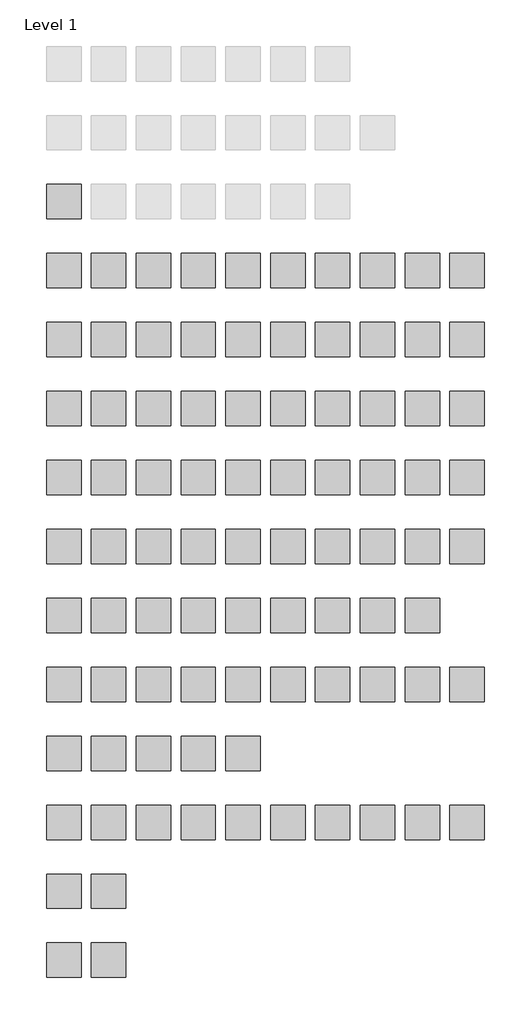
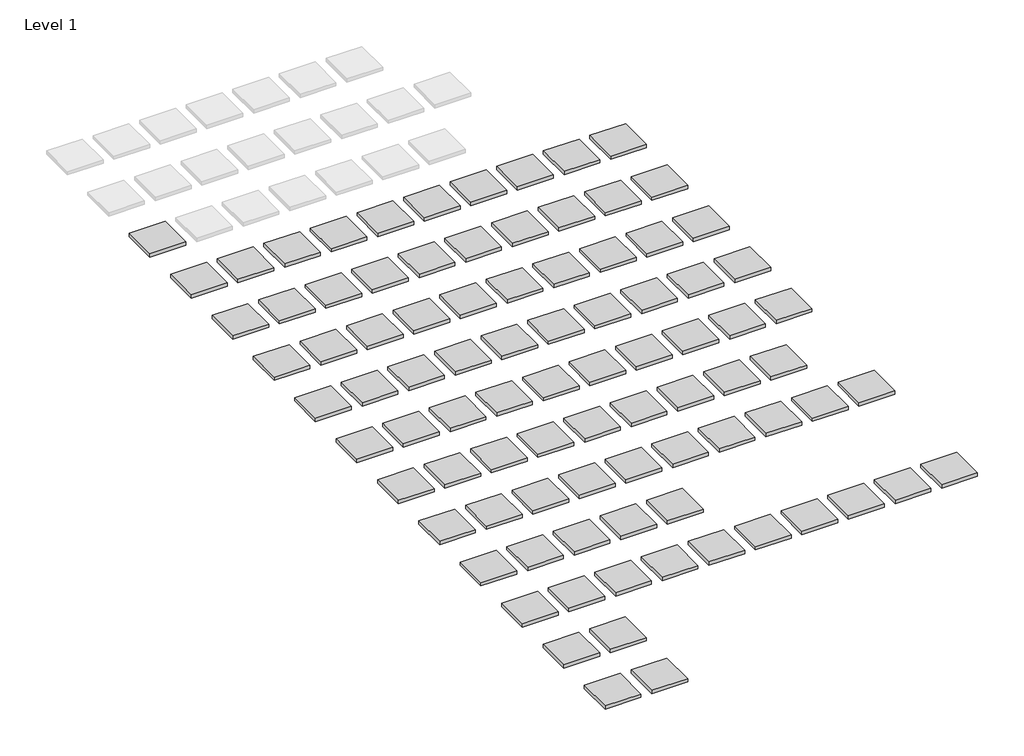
# One storey, part 1 of 2: 89 proxies.
"""IFC4 building model written with IfcOpenShell, lengths in millimetres."""

import ifcopenshell
import ifcopenshell.guid

model = None  # the IFC model being written
_history = None  # IfcOwnerHistory: only IFC2X3 demands one
_inside = {}  # id of a spatial element -> (the spatial element, [elements in it])
_under = {}  # id of a project, library or spatial element -> (it, [spatial elements below it])
_declared = {}  # id of a project -> (the project, [libraries it declares])
_typed = {}  # id of a type object -> (the type object, [elements of that type])
_made_of = {}  # id of a material, layer set ... -> (it, [elements and type objects made of it])


def new_model(schema):
    """Start an empty IFC model of exactly this schema.

    Asked for "IFC4X3", IfcOpenShell would pick the latest addendum, in which some entities
    have other attributes; the version numbers below select the first issue.
    IFC2X3 requires an IfcOwnerHistory on every rooted entity: one is made here for all.
    """
    global model, _history
    if schema == "IFC4X3":
        model = ifcopenshell.file(schema_version=(4, 3, 0, 0))
    else:
        model = ifcopenshell.file(schema=schema)
    _inside.clear()
    _under.clear()
    _declared.clear()
    _typed.clear()
    _made_of.clear()
    _history = None
    if model.schema == "IFC2X3":
        org = make("IfcOrganization", Name="unknown")
        user = make(
            "IfcPersonAndOrganization",
            ThePerson=make("IfcPerson", FamilyName="unknown"),
            TheOrganization=org,
        )
        app = make(
            "IfcApplication",
            ApplicationDeveloper=org,
            Version="unknown",
            ApplicationFullName="unknown",
            ApplicationIdentifier="unknown",
        )
        _history = make(
            "IfcOwnerHistory",
            OwningUser=user,
            OwningApplication=app,
            ChangeAction="ADDED",
            CreationDate=0,
        )
    return model


def make(cls, **values):
    """One entity of the class cls with the attributes given. An attribute that is None is left unset."""
    return model.create_entity(
        cls, **{name: value for name, value in values.items() if value is not None}
    )


def rooted(cls, **values):
    """An entity with a GlobalId (a new one), such as an element, a storey or a relation."""
    return make(cls, GlobalId=ifcopenshell.guid.new(), OwnerHistory=_history, **values)


def si_unit(unit_type, name, prefix=None):
    """IfcSIUnit, for example si_unit("LENGTHUNIT", "METRE", prefix="MILLI")."""
    return make("IfcSIUnit", UnitType=unit_type, Prefix=prefix, Name=name)


def assignment(units):
    """IfcUnitAssignment: the units of a project."""
    return None if units is None else make("IfcUnitAssignment", Units=units)


def point(xyz):
    """IfcCartesianPoint."""
    return None if xyz is None else make("IfcCartesianPoint", Coordinates=xyz)


def direction(xyz):
    """IfcDirection."""
    return None if xyz is None else make("IfcDirection", DirectionRatios=xyz)


def frame(location, z_axis=None, x_axis=None):
    """IfcAxis2Placement3D, a coordinate frame: its origin and axes. An axis left out is left unset."""
    return make(
        "IfcAxis2Placement3D",
        Location=point(location),
        Axis=direction(z_axis),
        RefDirection=direction(x_axis),
    )


def origin():
    """The frame at (0, 0, 0) with its axes left unset."""
    return frame((0.0, 0.0, 0.0))


def origin_with_axes():
    """The frame at (0, 0, 0) with the z axis (0, 0, 1) and the x axis (1, 0, 0) written out."""
    return frame((0.0, 0.0, 0.0), z_axis=(0.0, 0.0, 1.0), x_axis=(1.0, 0.0, 0.0))


def place(relative_to, where):
    """IfcLocalPlacement: puts the frame where relative to a parent placement (None: the world)."""
    return make(
        "IfcLocalPlacement", PlacementRelTo=relative_to, RelativePlacement=where
    )


def context(
    kind, dimensions, precision=None, world=None, true_north=None, identifier=None
):
    """IfcGeometricRepresentationContext, for example the 3D "Model" context."""
    return make(
        "IfcGeometricRepresentationContext",
        ContextIdentifier=identifier,
        ContextType=kind,
        CoordinateSpaceDimension=dimensions,
        Precision=precision,
        WorldCoordinateSystem=world,
        TrueNorth=true_north,
    )


def project(units=None, contexts=None):
    """IfcProject with its units and contexts."""
    return rooted(
        "IfcProject",
        Name="project",
        RepresentationContexts=contexts,
        UnitsInContext=assignment(units),
    )


def spatial(cls, under=None, at=None, **own):
    """A site, building, storey or space (cls), placed at a placement, below another one or the project."""
    s = rooted(cls, ObjectPlacement=at, **own)
    if under is not None:
        _under.setdefault(under.id(), (under, []))[1].append(s)
    return s


def polyline(points):
    """IfcPolyline through the points."""
    return make("IfcPolyline", Points=[point(p) for p in points])


def outline(outer, holes=None, kind="AREA"):
    """IfcArbitraryClosedProfileDef: a profile drawn as a closed curve; with holes, ...WithVoids."""
    if holes is None:
        return make("IfcArbitraryClosedProfileDef", ProfileType=kind, OuterCurve=outer)
    return make(
        "IfcArbitraryProfileDefWithVoids",
        ProfileType=kind,
        OuterCurve=outer,
        InnerCurves=holes,
    )


def extrude(swept, where, along, depth):
    """IfcExtrudedAreaSolid: the profile swept, set in the frame where, extruded along a direction by depth."""
    return make(
        "IfcExtrudedAreaSolid",
        SweptArea=swept,
        Position=where,
        ExtrudedDirection=direction(along),
        Depth=depth,
    )


def shape(context_of_items, identifier, shape_type, items):
    """IfcShapeRepresentation: the items that make up one representation, for example the "Body"."""
    return make(
        "IfcShapeRepresentation",
        ContextOfItems=context_of_items,
        RepresentationIdentifier=identifier,
        RepresentationType=shape_type,
        Items=items,
    )


def source(mapping_origin, context_of_items, identifier, shape_type, items):
    """IfcRepresentationMap: a shape defined once, which mapped items show again and again."""
    return make(
        "IfcRepresentationMap",
        MappingOrigin=mapping_origin,
        MappedRepresentation=shape(context_of_items, identifier, shape_type, items),
    )


def transform(
    local_origin,
    x_axis=None,
    y_axis=None,
    z_axis=None,
    scale=None,
    scale2=None,
    scale3=None,
    uniform=True,
):
    """IfcCartesianTransformationOperator3D, or its non-uniform kind. x_axis, y_axis, z_axis: its Axis1, 2, 3."""
    if uniform:
        return make(
            "IfcCartesianTransformationOperator3D",
            Axis1=direction(x_axis),
            Axis2=direction(y_axis),
            LocalOrigin=point(local_origin),
            Scale=scale,
            Axis3=direction(z_axis),
        )
    return make(
        "IfcCartesianTransformationOperator3DnonUniform",
        Axis1=direction(x_axis),
        Axis2=direction(y_axis),
        LocalOrigin=point(local_origin),
        Scale=scale,
        Axis3=direction(z_axis),
        Scale2=scale2,
        Scale3=scale3,
    )


def mapped(mapping_source, mapping_target):
    """IfcMappedItem: shows the shape of a source again, moved by a transform."""
    return make(
        "IfcMappedItem", MappingSource=mapping_source, MappingTarget=mapping_target
    )


def made_of(thing, what):
    """Note that an element or type object is made of a material, layer set ...; save() writes the relation."""
    if what is not None:
        _made_of.setdefault(what.id(), (what, []))[1].append(thing)
    return thing


def element(
    cls,
    number,
    at=None,
    inside=None,
    cuts=None,
    type_object=None,
    material=None,
    context=None,
    identifier="Body",
    shape_type=None,
    held_by="IfcProductDefinitionShape",
    body=None,
    shapes=None,
    **own,
):
    """One element of the class cls, such as IfcWall. Its Tag is "e" and its number.

    at: its placement. inside: the storey or other place that contains it. cuts: it is an
    opening in that element (IfcRelVoidsElement). A single representation is given by context,
    identifier, shape_type and body (its items); several are given by shapes. held_by: the class
    of the entity that holds the representations. save() writes the other relations.
    """
    e = rooted(cls, Tag="e%d" % number, ObjectPlacement=at, **own)
    if body is not None:
        shapes = [shape(context, identifier, shape_type, body)]
    if shapes is not None:
        e.Representation = make(held_by, Representations=shapes)
    if inside is not None:
        _inside.setdefault(inside.id(), (inside, []))[1].append(e)
    if cuts is not None:
        rooted(
            "IfcRelVoidsElement", RelatingBuildingElement=cuts, RelatedOpeningElement=e
        )
    if type_object is not None:
        _typed.setdefault(type_object.id(), (type_object, []))[1].append(e)
    return made_of(e, material)


def aggregate(whole, parts):
    """IfcRelAggregates: a whole, such as a stair, and the parts it consists of."""
    return rooted("IfcRelAggregates", RelatingObject=whole, RelatedObjects=parts)


def save(model, path):
    """Write the relations noted so far, then the file.

    IfcRelAggregates (storeys below a building ...), IfcRelContainedInSpatialStructure (elements
    in a storey), IfcRelDefinesByType, IfcRelAssociatesMaterial and IfcRelDeclares: one each for
    every whole, place, type object, material and project.
    """
    for whole, parts in _under.values():
        aggregate(whole, parts)
    for where, things in _inside.values():
        rooted(
            "IfcRelContainedInSpatialStructure",
            RelatedElements=things,
            RelatingStructure=where,
        )
    for kind, things in _typed.values():
        rooted("IfcRelDefinesByType", RelatedObjects=things, RelatingType=kind)
    for what, things in _made_of.values():
        rooted("IfcRelAssociatesMaterial", RelatedObjects=things, RelatingMaterial=what)
    for by, libraries in _declared.values():
        rooted("IfcRelDeclares", RelatingContext=by, RelatedDefinitions=libraries)
    model.write(path)


def generic_models_875eb390(model_context):
    return source(origin(), model_context, "Body", "SweptSolid", [
        extrude(outline(polyline([(1000.0, 0.0), (0.0, 0.0), (0.0, 1000.0), (1000.0, 1000.0), (1000.0, 0.0)])), origin_with_axes(), (0.0, 0.0, 1.0), 100.0),
    ])


model = new_model("IFC4")

# Units and contexts
model_context = context("Model", 3, world=origin())
ifc_project = project(units=[si_unit("LENGTHUNIT", "METRE", prefix="MILLI")], contexts=[model_context])

# Site, building, storey
site = spatial("IfcSite", under=ifc_project)
building = spatial("IfcBuilding", under=site)
storey = spatial("IfcBuildingStorey", under=building, Name="Level 1", Elevation=0.0)

# Proxies
placement = place(None, origin())
generic_models_shape = generic_models_875eb390(model_context)
element("IfcBuildingElementProxy", 1, Name="martela - material button : martela - material button", ObjectType="martela - material button : martela - material button", at=placement, inside=storey, context=model_context, shape_type="MappedRepresentation", body=[
    mapped(generic_models_shape, transform((1659.2592593, -7736.0165551, 0.0), x_axis=(1.0, 0.0, 0.0), y_axis=(0.0, 1.0, 0.0), z_axis=(0.0, 0.0, 1.0))),
])
element("IfcBuildingElementProxy", 2, Name="martela - material button : martela - material button", ObjectType="martela - material button : martela - material button", at=placement, inside=storey, context=model_context, shape_type="MappedRepresentation", body=[
    mapped(generic_models_shape, transform((1659.2592593, -9736.0165551, 0.0), x_axis=(1.0, 0.0, 0.0), y_axis=(0.0, 1.0, 0.0), z_axis=(0.0, 0.0, 1.0))),
])
element("IfcBuildingElementProxy", 3, Name="martela - material button : martela - material button", ObjectType="martela - material button : martela - material button", at=placement, inside=storey, context=model_context, shape_type="MappedRepresentation", body=[
    mapped(generic_models_shape, transform((2959.2592593, -9736.0165551, 0.0), x_axis=(1.0, 0.0, 0.0), y_axis=(0.0, 1.0, 0.0), z_axis=(0.0, 0.0, 1.0))),
])
element("IfcBuildingElementProxy", 4, Name="martela - material button : martela - material button", ObjectType="martela - material button : martela - material button", at=placement, inside=storey, context=model_context, shape_type="MappedRepresentation", body=[
    mapped(generic_models_shape, transform((4259.2592593, -9736.0165551, 0.0), x_axis=(1.0, 0.0, 0.0), y_axis=(0.0, 1.0, 0.0), z_axis=(0.0, 0.0, 1.0))),
])
element("IfcBuildingElementProxy", 5, Name="martela - material button : martela - material button", ObjectType="martela - material button : martela - material button", at=placement, inside=storey, context=model_context, shape_type="MappedRepresentation", body=[
    mapped(generic_models_shape, transform((5559.2592593, -9736.0165551, 0.0), x_axis=(1.0, 0.0, 0.0), y_axis=(0.0, 1.0, 0.0), z_axis=(0.0, 0.0, 1.0))),
])
element("IfcBuildingElementProxy", 6, Name="martela - material button : martela - material button", ObjectType="martela - material button : martela - material button", at=placement, inside=storey, context=model_context, shape_type="MappedRepresentation", body=[
    mapped(generic_models_shape, transform((6859.2592593, -9736.0165551, 0.0), x_axis=(1.0, 0.0, 0.0), y_axis=(0.0, 1.0, 0.0), z_axis=(0.0, 0.0, 1.0))),
])
element("IfcBuildingElementProxy", 7, Name="martela - material button : martela - material button", ObjectType="martela - material button : martela - material button", at=placement, inside=storey, context=model_context, shape_type="MappedRepresentation", body=[
    mapped(generic_models_shape, transform((8159.2592593, -9736.0165551, 0.0), x_axis=(1.0, 0.0, 0.0), y_axis=(0.0, 1.0, 0.0), z_axis=(0.0, 0.0, 1.0))),
])
element("IfcBuildingElementProxy", 8, Name="martela - material button : martela - material button", ObjectType="martela - material button : martela - material button", at=placement, inside=storey, context=model_context, shape_type="MappedRepresentation", body=[
    mapped(generic_models_shape, transform((9459.2592593, -9736.0165551, 0.0), x_axis=(1.0, 0.0, 0.0), y_axis=(0.0, 1.0, 0.0), z_axis=(0.0, 0.0, 1.0))),
])
element("IfcBuildingElementProxy", 9, Name="martela - material button : martela - material button", ObjectType="martela - material button : martela - material button", at=placement, inside=storey, context=model_context, shape_type="MappedRepresentation", body=[
    mapped(generic_models_shape, transform((10759.2592593, -9736.0165551, 0.0), x_axis=(1.0, 0.0, 0.0), y_axis=(0.0, 1.0, 0.0), z_axis=(0.0, 0.0, 1.0))),
])
element("IfcBuildingElementProxy", 10, Name="martela - material button : martela - material button", ObjectType="martela - material button : martela - material button", at=placement, inside=storey, context=model_context, shape_type="MappedRepresentation", body=[
    mapped(generic_models_shape, transform((12059.2592593, -9736.0165551, 0.0), x_axis=(1.0, 0.0, 0.0), y_axis=(0.0, 1.0, 0.0), z_axis=(0.0, 0.0, 1.0))),
])
element("IfcBuildingElementProxy", 11, Name="martela - material button : martela - material button", ObjectType="martela - material button : martela - material button", at=placement, inside=storey, context=model_context, shape_type="MappedRepresentation", body=[
    mapped(generic_models_shape, transform((13359.2592593, -9736.0165551, 0.0), x_axis=(1.0, 0.0, 0.0), y_axis=(0.0, 1.0, 0.0), z_axis=(0.0, 0.0, 1.0))),
])
element("IfcBuildingElementProxy", 12, Name="martela - material button : martela - material button", ObjectType="martela - material button : martela - material button", at=placement, inside=storey, context=model_context, shape_type="MappedRepresentation", body=[
    mapped(generic_models_shape, transform((1659.2592593, -11736.0165551, 0.0), x_axis=(1.0, 0.0, 0.0), y_axis=(0.0, 1.0, 0.0), z_axis=(0.0, 0.0, 1.0))),
])
element("IfcBuildingElementProxy", 13, Name="martela - material button : martela - material button", ObjectType="martela - material button : martela - material button", at=placement, inside=storey, context=model_context, shape_type="MappedRepresentation", body=[
    mapped(generic_models_shape, transform((2959.2592593, -11736.0165551, 0.0), x_axis=(1.0, 0.0, 0.0), y_axis=(0.0, 1.0, 0.0), z_axis=(0.0, 0.0, 1.0))),
])
element("IfcBuildingElementProxy", 14, Name="martela - material button : martela - material button", ObjectType="martela - material button : martela - material button", at=placement, inside=storey, context=model_context, shape_type="MappedRepresentation", body=[
    mapped(generic_models_shape, transform((4259.2592593, -11736.0165551, 0.0), x_axis=(1.0, 0.0, 0.0), y_axis=(0.0, 1.0, 0.0), z_axis=(0.0, 0.0, 1.0))),
])
element("IfcBuildingElementProxy", 15, Name="martela - material button : martela - material button", ObjectType="martela - material button : martela - material button", at=placement, inside=storey, context=model_context, shape_type="MappedRepresentation", body=[
    mapped(generic_models_shape, transform((5559.2592593, -11736.0165551, 0.0), x_axis=(1.0, 0.0, 0.0), y_axis=(0.0, 1.0, 0.0), z_axis=(0.0, 0.0, 1.0))),
])
element("IfcBuildingElementProxy", 16, Name="martela - material button : martela - material button", ObjectType="martela - material button : martela - material button", at=placement, inside=storey, context=model_context, shape_type="MappedRepresentation", body=[
    mapped(generic_models_shape, transform((6859.2592593, -11736.0165551, 0.0), x_axis=(1.0, 0.0, 0.0), y_axis=(0.0, 1.0, 0.0), z_axis=(0.0, 0.0, 1.0))),
])
element("IfcBuildingElementProxy", 17, Name="martela - material button : martela - material button", ObjectType="martela - material button : martela - material button", at=placement, inside=storey, context=model_context, shape_type="MappedRepresentation", body=[
    mapped(generic_models_shape, transform((8159.2592593, -11736.0165551, 0.0), x_axis=(1.0, 0.0, 0.0), y_axis=(0.0, 1.0, 0.0), z_axis=(0.0, 0.0, 1.0))),
])
element("IfcBuildingElementProxy", 18, Name="martela - material button : martela - material button", ObjectType="martela - material button : martela - material button", at=placement, inside=storey, context=model_context, shape_type="MappedRepresentation", body=[
    mapped(generic_models_shape, transform((9459.2592593, -11736.0165551, 0.0), x_axis=(1.0, 0.0, 0.0), y_axis=(0.0, 1.0, 0.0), z_axis=(0.0, 0.0, 1.0))),
])
element("IfcBuildingElementProxy", 19, Name="martela - material button : martela - material button", ObjectType="martela - material button : martela - material button", at=placement, inside=storey, context=model_context, shape_type="MappedRepresentation", body=[
    mapped(generic_models_shape, transform((10759.2592593, -11736.0165551, 0.0), x_axis=(1.0, 0.0, 0.0), y_axis=(0.0, 1.0, 0.0), z_axis=(0.0, 0.0, 1.0))),
])
element("IfcBuildingElementProxy", 20, Name="martela - material button : martela - material button", ObjectType="martela - material button : martela - material button", at=placement, inside=storey, context=model_context, shape_type="MappedRepresentation", body=[
    mapped(generic_models_shape, transform((12059.2592593, -11736.0165551, 0.0), x_axis=(1.0, 0.0, 0.0), y_axis=(0.0, 1.0, 0.0), z_axis=(0.0, 0.0, 1.0))),
])
element("IfcBuildingElementProxy", 21, Name="martela - material button : martela - material button", ObjectType="martela - material button : martela - material button", at=placement, inside=storey, context=model_context, shape_type="MappedRepresentation", body=[
    mapped(generic_models_shape, transform((13359.2592593, -11736.0165551, 0.0), x_axis=(1.0, 0.0, 0.0), y_axis=(0.0, 1.0, 0.0), z_axis=(0.0, 0.0, 1.0))),
])
element("IfcBuildingElementProxy", 22, Name="martela - material button : martela - material button", ObjectType="martela - material button : martela - material button", at=placement, inside=storey, context=model_context, shape_type="MappedRepresentation", body=[
    mapped(generic_models_shape, transform((1659.2592593, -13736.0165551, 0.0), x_axis=(1.0, 0.0, 0.0), y_axis=(0.0, 1.0, 0.0), z_axis=(0.0, 0.0, 1.0))),
])
element("IfcBuildingElementProxy", 23, Name="martela - material button : martela - material button", ObjectType="martela - material button : martela - material button", at=placement, inside=storey, context=model_context, shape_type="MappedRepresentation", body=[
    mapped(generic_models_shape, transform((2959.2592593, -13736.0165551, 0.0), x_axis=(1.0, 0.0, 0.0), y_axis=(0.0, 1.0, 0.0), z_axis=(0.0, 0.0, 1.0))),
])
element("IfcBuildingElementProxy", 24, Name="martela - material button : martela - material button", ObjectType="martela - material button : martela - material button", at=placement, inside=storey, context=model_context, shape_type="MappedRepresentation", body=[
    mapped(generic_models_shape, transform((4259.2592593, -13736.0165551, 0.0), x_axis=(1.0, 0.0, 0.0), y_axis=(0.0, 1.0, 0.0), z_axis=(0.0, 0.0, 1.0))),
])
element("IfcBuildingElementProxy", 25, Name="martela - material button : martela - material button", ObjectType="martela - material button : martela - material button", at=placement, inside=storey, context=model_context, shape_type="MappedRepresentation", body=[
    mapped(generic_models_shape, transform((5559.2592593, -13736.0165551, 0.0), x_axis=(1.0, 0.0, 0.0), y_axis=(0.0, 1.0, 0.0), z_axis=(0.0, 0.0, 1.0))),
])
element("IfcBuildingElementProxy", 26, Name="martela - material button : martela - material button", ObjectType="martela - material button : martela - material button", at=placement, inside=storey, context=model_context, shape_type="MappedRepresentation", body=[
    mapped(generic_models_shape, transform((6859.2592593, -13736.0165551, 0.0), x_axis=(1.0, 0.0, 0.0), y_axis=(0.0, 1.0, 0.0), z_axis=(0.0, 0.0, 1.0))),
])
element("IfcBuildingElementProxy", 27, Name="martela - material button : martela - material button", ObjectType="martela - material button : martela - material button", at=placement, inside=storey, context=model_context, shape_type="MappedRepresentation", body=[
    mapped(generic_models_shape, transform((8159.2592593, -13736.0165551, 0.0), x_axis=(1.0, 0.0, 0.0), y_axis=(0.0, 1.0, 0.0), z_axis=(0.0, 0.0, 1.0))),
])
element("IfcBuildingElementProxy", 28, Name="martela - material button : martela - material button", ObjectType="martela - material button : martela - material button", at=placement, inside=storey, context=model_context, shape_type="MappedRepresentation", body=[
    mapped(generic_models_shape, transform((9459.2592593, -13736.0165551, 0.0), x_axis=(1.0, 0.0, 0.0), y_axis=(0.0, 1.0, 0.0), z_axis=(0.0, 0.0, 1.0))),
])
element("IfcBuildingElementProxy", 29, Name="martela - material button : martela - material button", ObjectType="martela - material button : martela - material button", at=placement, inside=storey, context=model_context, shape_type="MappedRepresentation", body=[
    mapped(generic_models_shape, transform((10759.2592593, -13736.0165551, 0.0), x_axis=(1.0, 0.0, 0.0), y_axis=(0.0, 1.0, 0.0), z_axis=(0.0, 0.0, 1.0))),
])
element("IfcBuildingElementProxy", 30, Name="martela - material button : martela - material button", ObjectType="martela - material button : martela - material button", at=placement, inside=storey, context=model_context, shape_type="MappedRepresentation", body=[
    mapped(generic_models_shape, transform((12059.2592593, -13736.0165551, 0.0), x_axis=(1.0, 0.0, 0.0), y_axis=(0.0, 1.0, 0.0), z_axis=(0.0, 0.0, 1.0))),
])
element("IfcBuildingElementProxy", 31, Name="martela - material button : martela - material button", ObjectType="martela - material button : martela - material button", at=placement, inside=storey, context=model_context, shape_type="MappedRepresentation", body=[
    mapped(generic_models_shape, transform((13359.2592593, -13736.0165551, 0.0), x_axis=(1.0, 0.0, 0.0), y_axis=(0.0, 1.0, 0.0), z_axis=(0.0, 0.0, 1.0))),
])
element("IfcBuildingElementProxy", 32, Name="martela - material button : martela - material button", ObjectType="martela - material button : martela - material button", at=placement, inside=storey, context=model_context, shape_type="MappedRepresentation", body=[
    mapped(generic_models_shape, transform((1659.2592593, -15736.0165551, 0.0), x_axis=(1.0, 0.0, 0.0), y_axis=(0.0, 1.0, 0.0), z_axis=(0.0, 0.0, 1.0))),
])
element("IfcBuildingElementProxy", 33, Name="martela - material button : martela - material button", ObjectType="martela - material button : martela - material button", at=placement, inside=storey, context=model_context, shape_type="MappedRepresentation", body=[
    mapped(generic_models_shape, transform((2959.2592593, -15736.0165551, 0.0), x_axis=(1.0, 0.0, 0.0), y_axis=(0.0, 1.0, 0.0), z_axis=(0.0, 0.0, 1.0))),
])
element("IfcBuildingElementProxy", 34, Name="martela - material button : martela - material button", ObjectType="martela - material button : martela - material button", at=placement, inside=storey, context=model_context, shape_type="MappedRepresentation", body=[
    mapped(generic_models_shape, transform((4259.2592593, -15736.0165551, 0.0), x_axis=(1.0, 0.0, 0.0), y_axis=(0.0, 1.0, 0.0), z_axis=(0.0, 0.0, 1.0))),
])
element("IfcBuildingElementProxy", 35, Name="martela - material button : martela - material button", ObjectType="martela - material button : martela - material button", at=placement, inside=storey, context=model_context, shape_type="MappedRepresentation", body=[
    mapped(generic_models_shape, transform((5559.2592593, -15736.0165551, 0.0), x_axis=(1.0, 0.0, 0.0), y_axis=(0.0, 1.0, 0.0), z_axis=(0.0, 0.0, 1.0))),
])
element("IfcBuildingElementProxy", 36, Name="martela - material button : martela - material button", ObjectType="martela - material button : martela - material button", at=placement, inside=storey, context=model_context, shape_type="MappedRepresentation", body=[
    mapped(generic_models_shape, transform((6859.2592593, -15736.0165551, 0.0), x_axis=(1.0, 0.0, 0.0), y_axis=(0.0, 1.0, 0.0), z_axis=(0.0, 0.0, 1.0))),
])
element("IfcBuildingElementProxy", 37, Name="martela - material button : martela - material button", ObjectType="martela - material button : martela - material button", at=placement, inside=storey, context=model_context, shape_type="MappedRepresentation", body=[
    mapped(generic_models_shape, transform((8159.2592593, -15736.0165551, 0.0), x_axis=(1.0, 0.0, 0.0), y_axis=(0.0, 1.0, 0.0), z_axis=(0.0, 0.0, 1.0))),
])
element("IfcBuildingElementProxy", 38, Name="martela - material button : martela - material button", ObjectType="martela - material button : martela - material button", at=placement, inside=storey, context=model_context, shape_type="MappedRepresentation", body=[
    mapped(generic_models_shape, transform((9459.2592593, -15736.0165551, 0.0), x_axis=(1.0, 0.0, 0.0), y_axis=(0.0, 1.0, 0.0), z_axis=(0.0, 0.0, 1.0))),
])
element("IfcBuildingElementProxy", 39, Name="martela - material button : martela - material button", ObjectType="martela - material button : martela - material button", at=placement, inside=storey, context=model_context, shape_type="MappedRepresentation", body=[
    mapped(generic_models_shape, transform((10759.2592593, -15736.0165551, 0.0), x_axis=(1.0, 0.0, 0.0), y_axis=(0.0, 1.0, 0.0), z_axis=(0.0, 0.0, 1.0))),
])
element("IfcBuildingElementProxy", 40, Name="martela - material button : martela - material button", ObjectType="martela - material button : martela - material button", at=placement, inside=storey, context=model_context, shape_type="MappedRepresentation", body=[
    mapped(generic_models_shape, transform((12059.2592593, -15736.0165551, 0.0), x_axis=(1.0, 0.0, 0.0), y_axis=(0.0, 1.0, 0.0), z_axis=(0.0, 0.0, 1.0))),
])
element("IfcBuildingElementProxy", 41, Name="martela - material button : martela - material button", ObjectType="martela - material button : martela - material button", at=placement, inside=storey, context=model_context, shape_type="MappedRepresentation", body=[
    mapped(generic_models_shape, transform((13359.2592593, -15736.0165551, 0.0), x_axis=(1.0, 0.0, 0.0), y_axis=(0.0, 1.0, 0.0), z_axis=(0.0, 0.0, 1.0))),
])
element("IfcBuildingElementProxy", 42, Name="martela - material button : martela - material button", ObjectType="martela - material button : martela - material button", at=placement, inside=storey, context=model_context, shape_type="MappedRepresentation", body=[
    mapped(generic_models_shape, transform((1659.2592593, -17736.0165551, 0.0), x_axis=(1.0, 0.0, 0.0), y_axis=(0.0, 1.0, 0.0), z_axis=(0.0, 0.0, 1.0))),
])
element("IfcBuildingElementProxy", 43, Name="martela - material button : martela - material button", ObjectType="martela - material button : martela - material button", at=placement, inside=storey, context=model_context, shape_type="MappedRepresentation", body=[
    mapped(generic_models_shape, transform((2959.2592593, -17736.0165551, 0.0), x_axis=(1.0, 0.0, 0.0), y_axis=(0.0, 1.0, 0.0), z_axis=(0.0, 0.0, 1.0))),
])
element("IfcBuildingElementProxy", 44, Name="martela - material button : martela - material button", ObjectType="martela - material button : martela - material button", at=placement, inside=storey, context=model_context, shape_type="MappedRepresentation", body=[
    mapped(generic_models_shape, transform((4259.2592593, -17736.0165551, 0.0), x_axis=(1.0, 0.0, 0.0), y_axis=(0.0, 1.0, 0.0), z_axis=(0.0, 0.0, 1.0))),
])
element("IfcBuildingElementProxy", 45, Name="martela - material button : martela - material button", ObjectType="martela - material button : martela - material button", at=placement, inside=storey, context=model_context, shape_type="MappedRepresentation", body=[
    mapped(generic_models_shape, transform((5559.2592593, -17736.0165551, 0.0), x_axis=(1.0, 0.0, 0.0), y_axis=(0.0, 1.0, 0.0), z_axis=(0.0, 0.0, 1.0))),
])
element("IfcBuildingElementProxy", 46, Name="martela - material button : martela - material button", ObjectType="martela - material button : martela - material button", at=placement, inside=storey, context=model_context, shape_type="MappedRepresentation", body=[
    mapped(generic_models_shape, transform((6859.2592593, -17736.0165551, 0.0), x_axis=(1.0, 0.0, 0.0), y_axis=(0.0, 1.0, 0.0), z_axis=(0.0, 0.0, 1.0))),
])
element("IfcBuildingElementProxy", 47, Name="martela - material button : martela - material button", ObjectType="martela - material button : martela - material button", at=placement, inside=storey, context=model_context, shape_type="MappedRepresentation", body=[
    mapped(generic_models_shape, transform((8159.2592593, -17736.0165551, 0.0), x_axis=(1.0, 0.0, 0.0), y_axis=(0.0, 1.0, 0.0), z_axis=(0.0, 0.0, 1.0))),
])
element("IfcBuildingElementProxy", 48, Name="martela - material button : martela - material button", ObjectType="martela - material button : martela - material button", at=placement, inside=storey, context=model_context, shape_type="MappedRepresentation", body=[
    mapped(generic_models_shape, transform((9459.2592593, -17736.0165551, 0.0), x_axis=(1.0, 0.0, 0.0), y_axis=(0.0, 1.0, 0.0), z_axis=(0.0, 0.0, 1.0))),
])
element("IfcBuildingElementProxy", 49, Name="martela - material button : martela - material button", ObjectType="martela - material button : martela - material button", at=placement, inside=storey, context=model_context, shape_type="MappedRepresentation", body=[
    mapped(generic_models_shape, transform((10759.2592593, -17736.0165551, 0.0), x_axis=(1.0, 0.0, 0.0), y_axis=(0.0, 1.0, 0.0), z_axis=(0.0, 0.0, 1.0))),
])
element("IfcBuildingElementProxy", 50, Name="martela - material button : martela - material button", ObjectType="martela - material button : martela - material button", at=placement, inside=storey, context=model_context, shape_type="MappedRepresentation", body=[
    mapped(generic_models_shape, transform((12059.2592593, -17736.0165551, 0.0), x_axis=(1.0, 0.0, 0.0), y_axis=(0.0, 1.0, 0.0), z_axis=(0.0, 0.0, 1.0))),
])
element("IfcBuildingElementProxy", 51, Name="martela - material button : martela - material button", ObjectType="martela - material button : martela - material button", at=placement, inside=storey, context=model_context, shape_type="MappedRepresentation", body=[
    mapped(generic_models_shape, transform((13359.2592593, -17736.0165551, 0.0), x_axis=(1.0, 0.0, 0.0), y_axis=(0.0, 1.0, 0.0), z_axis=(0.0, 0.0, 1.0))),
])
element("IfcBuildingElementProxy", 52, Name="martela - material button : martela - material button", ObjectType="martela - material button : martela - material button", at=placement, inside=storey, context=model_context, shape_type="MappedRepresentation", body=[
    mapped(generic_models_shape, transform((1659.2592593, -19736.0165551, 0.0), x_axis=(1.0, 0.0, 0.0), y_axis=(0.0, 1.0, 0.0), z_axis=(0.0, 0.0, 1.0))),
])
element("IfcBuildingElementProxy", 53, Name="martela - material button : martela - material button", ObjectType="martela - material button : martela - material button", at=placement, inside=storey, context=model_context, shape_type="MappedRepresentation", body=[
    mapped(generic_models_shape, transform((4259.2592593, -19736.0165551, 0.0), x_axis=(1.0, 0.0, 0.0), y_axis=(0.0, 1.0, 0.0), z_axis=(0.0, 0.0, 1.0))),
])
element("IfcBuildingElementProxy", 54, Name="martela - material button : martela - material button", ObjectType="martela - material button : martela - material button", at=placement, inside=storey, context=model_context, shape_type="MappedRepresentation", body=[
    mapped(generic_models_shape, transform((5559.2592593, -19736.0165551, 0.0), x_axis=(1.0, 0.0, 0.0), y_axis=(0.0, 1.0, 0.0), z_axis=(0.0, 0.0, 1.0))),
])
element("IfcBuildingElementProxy", 55, Name="martela - material button : martela - material button", ObjectType="martela - material button : martela - material button", at=placement, inside=storey, context=model_context, shape_type="MappedRepresentation", body=[
    mapped(generic_models_shape, transform((6859.2592593, -19736.0165551, 0.0), x_axis=(1.0, 0.0, 0.0), y_axis=(0.0, 1.0, 0.0), z_axis=(0.0, 0.0, 1.0))),
])
element("IfcBuildingElementProxy", 56, Name="martela - material button : martela - material button", ObjectType="martela - material button : martela - material button", at=placement, inside=storey, context=model_context, shape_type="MappedRepresentation", body=[
    mapped(generic_models_shape, transform((8159.2592593, -19736.0165551, 0.0), x_axis=(1.0, 0.0, 0.0), y_axis=(0.0, 1.0, 0.0), z_axis=(0.0, 0.0, 1.0))),
])
element("IfcBuildingElementProxy", 57, Name="martela - material button : martela - material button", ObjectType="martela - material button : martela - material button", at=placement, inside=storey, context=model_context, shape_type="MappedRepresentation", body=[
    mapped(generic_models_shape, transform((9459.2592593, -19736.0165551, 0.0), x_axis=(1.0, 0.0, 0.0), y_axis=(0.0, 1.0, 0.0), z_axis=(0.0, 0.0, 1.0))),
])
element("IfcBuildingElementProxy", 58, Name="martela - material button : martela - material button", ObjectType="martela - material button : martela - material button", at=placement, inside=storey, context=model_context, shape_type="MappedRepresentation", body=[
    mapped(generic_models_shape, transform((10759.2592593, -19736.0165551, 0.0), x_axis=(1.0, 0.0, 0.0), y_axis=(0.0, 1.0, 0.0), z_axis=(0.0, 0.0, 1.0))),
])
element("IfcBuildingElementProxy", 59, Name="martela - material button : martela - material button", ObjectType="martela - material button : martela - material button", at=placement, inside=storey, context=model_context, shape_type="MappedRepresentation", body=[
    mapped(generic_models_shape, transform((12059.2592593, -19736.0165551, 0.0), x_axis=(1.0, 0.0, 0.0), y_axis=(0.0, 1.0, 0.0), z_axis=(0.0, 0.0, 1.0))),
])
element("IfcBuildingElementProxy", 60, Name="martela - material button : martela - material button", ObjectType="martela - material button : martela - material button", at=placement, inside=storey, context=model_context, shape_type="MappedRepresentation", body=[
    mapped(generic_models_shape, transform((2959.2592593, -19736.0165551, 0.0), x_axis=(1.0, 0.0, 0.0), y_axis=(0.0, 1.0, 0.0), z_axis=(0.0, 0.0, 1.0))),
])
element("IfcBuildingElementProxy", 61, Name="martela - material button : martela - material button", ObjectType="martela - material button : martela - material button", at=placement, inside=storey, context=model_context, shape_type="MappedRepresentation", body=[
    mapped(generic_models_shape, transform((1659.2592593, -21736.0165551, 0.0), x_axis=(1.0, 0.0, 0.0), y_axis=(0.0, 1.0, 0.0), z_axis=(0.0, 0.0, 1.0))),
])
element("IfcBuildingElementProxy", 62, Name="martela - material button : martela - material button", ObjectType="martela - material button : martela - material button", at=placement, inside=storey, context=model_context, shape_type="MappedRepresentation", body=[
    mapped(generic_models_shape, transform((2959.2592593, -21736.0165551, 0.0), x_axis=(1.0, 0.0, 0.0), y_axis=(0.0, 1.0, 0.0), z_axis=(0.0, 0.0, 1.0))),
])
element("IfcBuildingElementProxy", 63, Name="martela - material button : martela - material button", ObjectType="martela - material button : martela - material button", at=placement, inside=storey, context=model_context, shape_type="MappedRepresentation", body=[
    mapped(generic_models_shape, transform((4259.2592593, -21736.0165551, 0.0), x_axis=(1.0, 0.0, 0.0), y_axis=(0.0, 1.0, 0.0), z_axis=(0.0, 0.0, 1.0))),
])
element("IfcBuildingElementProxy", 64, Name="martela - material button : martela - material button", ObjectType="martela - material button : martela - material button", at=placement, inside=storey, context=model_context, shape_type="MappedRepresentation", body=[
    mapped(generic_models_shape, transform((5559.2592593, -21736.0165551, 0.0), x_axis=(1.0, 0.0, 0.0), y_axis=(0.0, 1.0, 0.0), z_axis=(0.0, 0.0, 1.0))),
])
element("IfcBuildingElementProxy", 65, Name="martela - material button : martela - material button", ObjectType="martela - material button : martela - material button", at=placement, inside=storey, context=model_context, shape_type="MappedRepresentation", body=[
    mapped(generic_models_shape, transform((6859.2592593, -21736.0165551, 0.0), x_axis=(1.0, 0.0, 0.0), y_axis=(0.0, 1.0, 0.0), z_axis=(0.0, 0.0, 1.0))),
])
element("IfcBuildingElementProxy", 66, Name="martela - material button : martela - material button", ObjectType="martela - material button : martela - material button", at=placement, inside=storey, context=model_context, shape_type="MappedRepresentation", body=[
    mapped(generic_models_shape, transform((8159.2592593, -21736.0165551, 0.0), x_axis=(1.0, 0.0, 0.0), y_axis=(0.0, 1.0, 0.0), z_axis=(0.0, 0.0, 1.0))),
])
element("IfcBuildingElementProxy", 67, Name="martela - material button : martela - material button", ObjectType="martela - material button : martela - material button", at=placement, inside=storey, context=model_context, shape_type="MappedRepresentation", body=[
    mapped(generic_models_shape, transform((9459.2592593, -21736.0165551, 0.0), x_axis=(1.0, 0.0, 0.0), y_axis=(0.0, 1.0, 0.0), z_axis=(0.0, 0.0, 1.0))),
])
element("IfcBuildingElementProxy", 68, Name="martela - material button : martela - material button", ObjectType="martela - material button : martela - material button", at=placement, inside=storey, context=model_context, shape_type="MappedRepresentation", body=[
    mapped(generic_models_shape, transform((10759.2592593, -21736.0165551, 0.0), x_axis=(1.0, 0.0, 0.0), y_axis=(0.0, 1.0, 0.0), z_axis=(0.0, 0.0, 1.0))),
])
element("IfcBuildingElementProxy", 69, Name="martela - material button : martela - material button", ObjectType="martela - material button : martela - material button", at=placement, inside=storey, context=model_context, shape_type="MappedRepresentation", body=[
    mapped(generic_models_shape, transform((12059.2592593, -21736.0165551, 0.0), x_axis=(1.0, 0.0, 0.0), y_axis=(0.0, 1.0, 0.0), z_axis=(0.0, 0.0, 1.0))),
])
element("IfcBuildingElementProxy", 70, Name="martela - material button : martela - material button", ObjectType="martela - material button : martela - material button", at=placement, inside=storey, context=model_context, shape_type="MappedRepresentation", body=[
    mapped(generic_models_shape, transform((13359.2592593, -21736.0165551, 0.0), x_axis=(1.0, 0.0, 0.0), y_axis=(0.0, 1.0, 0.0), z_axis=(0.0, 0.0, 1.0))),
])
element("IfcBuildingElementProxy", 71, Name="martela - material button : martela - material button", ObjectType="martela - material button : martela - material button", at=placement, inside=storey, context=model_context, shape_type="MappedRepresentation", body=[
    mapped(generic_models_shape, transform((1659.2592593, -23736.0165551, 0.0), x_axis=(1.0, 0.0, 0.0), y_axis=(0.0, 1.0, 0.0), z_axis=(0.0, 0.0, 1.0))),
])
element("IfcBuildingElementProxy", 72, Name="martela - material button : martela - material button", ObjectType="martela - material button : martela - material button", at=placement, inside=storey, context=model_context, shape_type="MappedRepresentation", body=[
    mapped(generic_models_shape, transform((2959.2592593, -23736.0165551, 0.0), x_axis=(1.0, 0.0, 0.0), y_axis=(0.0, 1.0, 0.0), z_axis=(0.0, 0.0, 1.0))),
])
element("IfcBuildingElementProxy", 73, Name="martela - material button : martela - material button", ObjectType="martela - material button : martela - material button", at=placement, inside=storey, context=model_context, shape_type="MappedRepresentation", body=[
    mapped(generic_models_shape, transform((4259.2592593, -23736.0165551, 0.0), x_axis=(1.0, 0.0, 0.0), y_axis=(0.0, 1.0, 0.0), z_axis=(0.0, 0.0, 1.0))),
])
element("IfcBuildingElementProxy", 74, Name="martela - material button : martela - material button", ObjectType="martela - material button : martela - material button", at=placement, inside=storey, context=model_context, shape_type="MappedRepresentation", body=[
    mapped(generic_models_shape, transform((5559.2592593, -23736.0165551, 0.0), x_axis=(1.0, 0.0, 0.0), y_axis=(0.0, 1.0, 0.0), z_axis=(0.0, 0.0, 1.0))),
])
element("IfcBuildingElementProxy", 75, Name="martela - material button : martela - material button", ObjectType="martela - material button : martela - material button", at=placement, inside=storey, context=model_context, shape_type="MappedRepresentation", body=[
    mapped(generic_models_shape, transform((6859.2592593, -23736.0165551, 0.0), x_axis=(1.0, 0.0, 0.0), y_axis=(0.0, 1.0, 0.0), z_axis=(0.0, 0.0, 1.0))),
])
element("IfcBuildingElementProxy", 76, Name="martela - material button : martela - material button", ObjectType="martela - material button : martela - material button", at=placement, inside=storey, context=model_context, shape_type="MappedRepresentation", body=[
    mapped(generic_models_shape, transform((1659.2592593, -25736.0165551, 0.0), x_axis=(1.0, 0.0, 0.0), y_axis=(0.0, 1.0, 0.0), z_axis=(0.0, 0.0, 1.0))),
])
element("IfcBuildingElementProxy", 77, Name="martela - material button : martela - material button", ObjectType="martela - material button : martela - material button", at=placement, inside=storey, context=model_context, shape_type="MappedRepresentation", body=[
    mapped(generic_models_shape, transform((2959.2592593, -25736.0165551, 0.0), x_axis=(1.0, 0.0, 0.0), y_axis=(0.0, 1.0, 0.0), z_axis=(0.0, 0.0, 1.0))),
])
element("IfcBuildingElementProxy", 78, Name="martela - material button : martela - material button", ObjectType="martela - material button : martela - material button", at=placement, inside=storey, context=model_context, shape_type="MappedRepresentation", body=[
    mapped(generic_models_shape, transform((4259.2592593, -25736.0165551, 0.0), x_axis=(1.0, 0.0, 0.0), y_axis=(0.0, 1.0, 0.0), z_axis=(0.0, 0.0, 1.0))),
])
element("IfcBuildingElementProxy", 79, Name="martela - material button : martela - material button", ObjectType="martela - material button : martela - material button", at=placement, inside=storey, context=model_context, shape_type="MappedRepresentation", body=[
    mapped(generic_models_shape, transform((5559.2592593, -25736.0165551, 0.0), x_axis=(1.0, 0.0, 0.0), y_axis=(0.0, 1.0, 0.0), z_axis=(0.0, 0.0, 1.0))),
])
element("IfcBuildingElementProxy", 80, Name="martela - material button : martela - material button", ObjectType="martela - material button : martela - material button", at=placement, inside=storey, context=model_context, shape_type="MappedRepresentation", body=[
    mapped(generic_models_shape, transform((6859.2592593, -25736.0165551, 0.0), x_axis=(1.0, 0.0, 0.0), y_axis=(0.0, 1.0, 0.0), z_axis=(0.0, 0.0, 1.0))),
])
element("IfcBuildingElementProxy", 81, Name="martela - material button : martela - material button", ObjectType="martela - material button : martela - material button", at=placement, inside=storey, context=model_context, shape_type="MappedRepresentation", body=[
    mapped(generic_models_shape, transform((8159.2592593, -25736.0165551, 0.0), x_axis=(1.0, 0.0, 0.0), y_axis=(0.0, 1.0, 0.0), z_axis=(0.0, 0.0, 1.0))),
])
element("IfcBuildingElementProxy", 82, Name="martela - material button : martela - material button", ObjectType="martela - material button : martela - material button", at=placement, inside=storey, context=model_context, shape_type="MappedRepresentation", body=[
    mapped(generic_models_shape, transform((9459.2592593, -25736.0165551, 0.0), x_axis=(1.0, 0.0, 0.0), y_axis=(0.0, 1.0, 0.0), z_axis=(0.0, 0.0, 1.0))),
])
element("IfcBuildingElementProxy", 83, Name="martela - material button : martela - material button", ObjectType="martela - material button : martela - material button", at=placement, inside=storey, context=model_context, shape_type="MappedRepresentation", body=[
    mapped(generic_models_shape, transform((10759.2592593, -25736.0165551, 0.0), x_axis=(1.0, 0.0, 0.0), y_axis=(0.0, 1.0, 0.0), z_axis=(0.0, 0.0, 1.0))),
])
element("IfcBuildingElementProxy", 84, Name="martela - material button : martela - material button", ObjectType="martela - material button : martela - material button", at=placement, inside=storey, context=model_context, shape_type="MappedRepresentation", body=[
    mapped(generic_models_shape, transform((12059.2592593, -25736.0165551, 0.0), x_axis=(1.0, 0.0, 0.0), y_axis=(0.0, 1.0, 0.0), z_axis=(0.0, 0.0, 1.0))),
])
element("IfcBuildingElementProxy", 85, Name="martela - material button : martela - material button", ObjectType="martela - material button : martela - material button", at=placement, inside=storey, context=model_context, shape_type="MappedRepresentation", body=[
    mapped(generic_models_shape, transform((13359.2592593, -25736.0165551, 0.0), x_axis=(1.0, 0.0, 0.0), y_axis=(0.0, 1.0, 0.0), z_axis=(0.0, 0.0, 1.0))),
])
element("IfcBuildingElementProxy", 86, Name="martela - material button : martela - material button", ObjectType="martela - material button : martela - material button", at=placement, inside=storey, context=model_context, shape_type="MappedRepresentation", body=[
    mapped(generic_models_shape, transform((1659.2592593, -27736.0165551, 0.0), x_axis=(1.0, 0.0, 0.0), y_axis=(0.0, 1.0, 0.0), z_axis=(0.0, 0.0, 1.0))),
])
element("IfcBuildingElementProxy", 87, Name="martela - material button : martela - material button", ObjectType="martela - material button : martela - material button", at=placement, inside=storey, context=model_context, shape_type="MappedRepresentation", body=[
    mapped(generic_models_shape, transform((2959.2592593, -27736.0165551, 0.0), x_axis=(1.0, 0.0, 0.0), y_axis=(0.0, 1.0, 0.0), z_axis=(0.0, 0.0, 1.0))),
])
element("IfcBuildingElementProxy", 88, Name="martela - material button : martela - material button", ObjectType="martela - material button : martela - material button", at=placement, inside=storey, context=model_context, shape_type="MappedRepresentation", body=[
    mapped(generic_models_shape, transform((1659.2592593, -29736.0165551, 0.0), x_axis=(1.0, 0.0, 0.0), y_axis=(0.0, 1.0, 0.0), z_axis=(0.0, 0.0, 1.0))),
])
element("IfcBuildingElementProxy", 89, Name="martela - material button : martela - material button", ObjectType="martela - material button : martela - material button", at=placement, inside=storey, context=model_context, shape_type="MappedRepresentation", body=[
    mapped(generic_models_shape, transform((2959.2592593, -29736.0165551, 0.0), x_axis=(1.0, 0.0, 0.0), y_axis=(0.0, 1.0, 0.0), z_axis=(0.0, 0.0, 1.0))),
])

save(model, "model.ifc")
